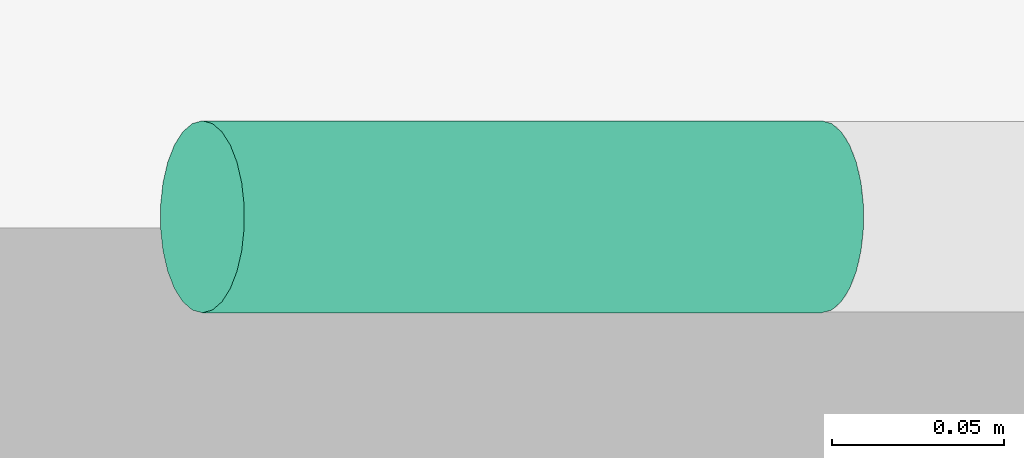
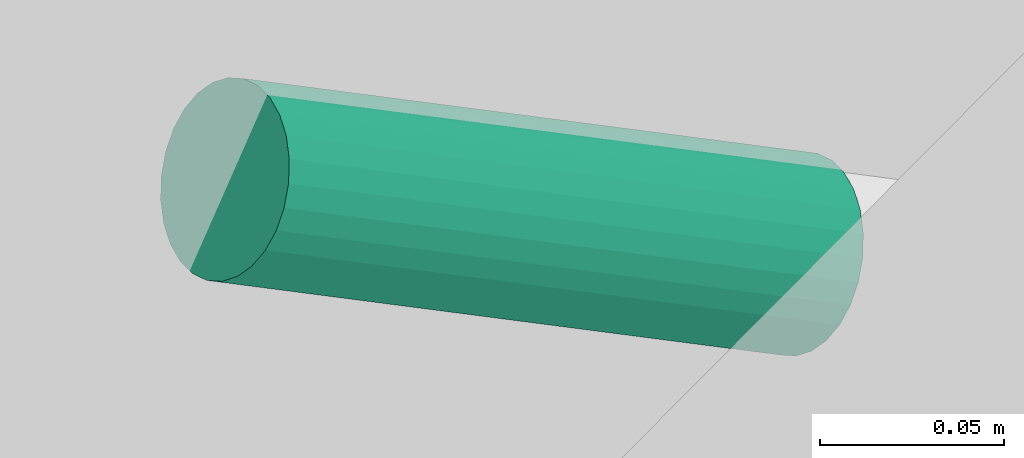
# One storey, part 34 of 108: 1 cable carrier segment.
"""IFC4 building model written with IfcOpenShell, lengths in feet."""

import ifcopenshell
import ifcopenshell.guid

model = None  # the IFC model being written
_history = None  # IfcOwnerHistory: only IFC2X3 demands one
_inside = {}  # id of a spatial element -> (the spatial element, [elements in it])
_under = {}  # id of a project, library or spatial element -> (it, [spatial elements below it])
_declared = {}  # id of a project -> (the project, [libraries it declares])
_typed = {}  # id of a type object -> (the type object, [elements of that type])
_made_of = {}  # id of a material, layer set ... -> (it, [elements and type objects made of it])


def new_model(schema):
    """Start an empty IFC model of exactly this schema.

    Asked for "IFC4X3", IfcOpenShell would pick the latest addendum, in which some entities
    have other attributes; the version numbers below select the first issue.
    IFC2X3 requires an IfcOwnerHistory on every rooted entity: one is made here for all.
    """
    global model, _history
    if schema == "IFC4X3":
        model = ifcopenshell.file(schema_version=(4, 3, 0, 0))
    else:
        model = ifcopenshell.file(schema=schema)
    _inside.clear()
    _under.clear()
    _declared.clear()
    _typed.clear()
    _made_of.clear()
    _history = None
    if model.schema == "IFC2X3":
        org = make("IfcOrganization", Name="unknown")
        user = make(
            "IfcPersonAndOrganization",
            ThePerson=make("IfcPerson", FamilyName="unknown"),
            TheOrganization=org,
        )
        app = make(
            "IfcApplication",
            ApplicationDeveloper=org,
            Version="unknown",
            ApplicationFullName="unknown",
            ApplicationIdentifier="unknown",
        )
        _history = make(
            "IfcOwnerHistory",
            OwningUser=user,
            OwningApplication=app,
            ChangeAction="ADDED",
            CreationDate=0,
        )
    return model


def make(cls, **values):
    """One entity of the class cls with the attributes given. An attribute that is None is left unset."""
    return model.create_entity(
        cls, **{name: value for name, value in values.items() if value is not None}
    )


def entity(cls, *values):
    """Any entity or typed value of the class cls, its attributes in the order of the schema. None: left unset."""
    e = model.create_entity(cls)
    for i, value in enumerate(values):
        if value is not None:
            e[i] = value
    return e


def rooted(cls, **values):
    """An entity with a GlobalId (a new one), such as an element, a storey or a relation."""
    return make(cls, GlobalId=ifcopenshell.guid.new(), OwnerHistory=_history, **values)


def si_unit(unit_type, name, prefix=None):
    """IfcSIUnit, for example si_unit("LENGTHUNIT", "METRE", prefix="MILLI")."""
    return make("IfcSIUnit", UnitType=unit_type, Prefix=prefix, Name=name)


def converted_unit(unit_type, name, factor, base, dimensions=None, offset=None):
    """IfcConversionBasedUnit, such as the inch: factor (a typed value) times the base unit."""
    return make(
        "IfcConversionBasedUnit"
        if offset is None
        else "IfcConversionBasedUnitWithOffset",
        ConversionOffset=offset,
        Dimensions=None
        if dimensions is None
        else entity("IfcDimensionalExponents", *dimensions),
        UnitType=unit_type,
        Name=name,
        ConversionFactor=make(
            "IfcMeasureWithUnit", ValueComponent=factor, UnitComponent=base
        ),
    )


def derived_unit(unit_type, elements):
    """IfcDerivedUnit: a product of units, each with its exponent."""
    return make(
        "IfcDerivedUnit",
        Elements=[
            make("IfcDerivedUnitElement", Unit=unit, Exponent=power)
            for unit, power in elements
        ],
        UnitType=unit_type,
    )


def assignment(units):
    """IfcUnitAssignment: the units of a project."""
    return None if units is None else make("IfcUnitAssignment", Units=units)


def point(xyz):
    """IfcCartesianPoint."""
    return None if xyz is None else make("IfcCartesianPoint", Coordinates=xyz)


def direction(xyz):
    """IfcDirection."""
    return None if xyz is None else make("IfcDirection", DirectionRatios=xyz)


def frame(location, z_axis=None, x_axis=None):
    """IfcAxis2Placement3D, a coordinate frame: its origin and axes. An axis left out is left unset."""
    return make(
        "IfcAxis2Placement3D",
        Location=point(location),
        Axis=direction(z_axis),
        RefDirection=direction(x_axis),
    )


def frame_2d(location, x_axis=None):
    """IfcAxis2Placement2D, a coordinate frame in the plane: its origin and x axis."""
    return make(
        "IfcAxis2Placement2D", Location=point(location), RefDirection=direction(x_axis)
    )


def origin():
    """The frame at (0, 0, 0) with its axes left unset."""
    return frame((0.0, 0.0, 0.0))


def place(relative_to, where):
    """IfcLocalPlacement: puts the frame where relative to a parent placement (None: the world)."""
    return make(
        "IfcLocalPlacement", PlacementRelTo=relative_to, RelativePlacement=where
    )


def context(
    kind, dimensions, precision=None, world=None, true_north=None, identifier=None
):
    """IfcGeometricRepresentationContext, for example the 3D "Model" context."""
    return make(
        "IfcGeometricRepresentationContext",
        ContextIdentifier=identifier,
        ContextType=kind,
        CoordinateSpaceDimension=dimensions,
        Precision=precision,
        WorldCoordinateSystem=world,
        TrueNorth=true_north,
    )


def subcontext(parent, identifier, kind, view, scale=None):
    """IfcGeometricRepresentationSubContext, for example "Body" below "Model"."""
    return make(
        "IfcGeometricRepresentationSubContext",
        ContextIdentifier=identifier,
        ContextType=kind,
        ParentContext=parent,
        TargetScale=scale,
        TargetView=view,
    )


def project(units=None, contexts=None):
    """IfcProject with its units and contexts."""
    return rooted(
        "IfcProject",
        Name="project",
        RepresentationContexts=contexts,
        UnitsInContext=assignment(units),
    )


def spatial(cls, under=None, at=None, **own):
    """A site, building, storey or space (cls), placed at a placement, below another one or the project."""
    s = rooted(cls, ObjectPlacement=at, **own)
    if under is not None:
        _under.setdefault(under.id(), (under, []))[1].append(s)
    return s


def profile(cls, at=None, kind="AREA", **sizes):
    """A parametric profile (cls). Its sizes go by their IFC names, for example OverallWidth=200.0."""
    return make(cls, ProfileType=kind, Position=at, **sizes)


def circle(**sizes):
    """IfcCircleProfileDef."""
    return profile("IfcCircleProfileDef", **sizes)


def extrude(swept, where, along, depth):
    """IfcExtrudedAreaSolid: the profile swept, set in the frame where, extruded along a direction by depth."""
    return make(
        "IfcExtrudedAreaSolid",
        SweptArea=swept,
        Position=where,
        ExtrudedDirection=direction(along),
        Depth=depth,
    )


def shape(context_of_items, identifier, shape_type, items):
    """IfcShapeRepresentation: the items that make up one representation, for example the "Body"."""
    return make(
        "IfcShapeRepresentation",
        ContextOfItems=context_of_items,
        RepresentationIdentifier=identifier,
        RepresentationType=shape_type,
        Items=items,
    )


def made_of(thing, what):
    """Note that an element or type object is made of a material, layer set ...; save() writes the relation."""
    if what is not None:
        _made_of.setdefault(what.id(), (what, []))[1].append(thing)
    return thing


def type_object(cls, material=None, **own):
    """A type object (cls), such as IfcWallType, which elements share."""
    return made_of(rooted(cls, **own), material)


def element(
    cls,
    number,
    at=None,
    inside=None,
    cuts=None,
    type_object=None,
    material=None,
    context=None,
    identifier="Body",
    shape_type=None,
    held_by="IfcProductDefinitionShape",
    body=None,
    shapes=None,
    **own,
):
    """One element of the class cls, such as IfcWall. Its Tag is "e" and its number.

    at: its placement. inside: the storey or other place that contains it. cuts: it is an
    opening in that element (IfcRelVoidsElement). A single representation is given by context,
    identifier, shape_type and body (its items); several are given by shapes. held_by: the class
    of the entity that holds the representations. save() writes the other relations.
    """
    e = rooted(cls, Tag="e%d" % number, ObjectPlacement=at, **own)
    if body is not None:
        shapes = [shape(context, identifier, shape_type, body)]
    if shapes is not None:
        e.Representation = make(held_by, Representations=shapes)
    if inside is not None:
        _inside.setdefault(inside.id(), (inside, []))[1].append(e)
    if cuts is not None:
        rooted(
            "IfcRelVoidsElement", RelatingBuildingElement=cuts, RelatedOpeningElement=e
        )
    if type_object is not None:
        _typed.setdefault(type_object.id(), (type_object, []))[1].append(e)
    return made_of(e, material)


def aggregate(whole, parts):
    """IfcRelAggregates: a whole, such as a stair, and the parts it consists of."""
    return rooted("IfcRelAggregates", RelatingObject=whole, RelatedObjects=parts)


def save(model, path):
    """Write the relations noted so far, then the file.

    IfcRelAggregates (storeys below a building ...), IfcRelContainedInSpatialStructure (elements
    in a storey), IfcRelDefinesByType, IfcRelAssociatesMaterial and IfcRelDeclares: one each for
    every whole, place, type object, material and project.
    """
    for whole, parts in _under.values():
        aggregate(whole, parts)
    for where, things in _inside.values():
        rooted(
            "IfcRelContainedInSpatialStructure",
            RelatedElements=things,
            RelatingStructure=where,
        )
    for kind, things in _typed.values():
        rooted("IfcRelDefinesByType", RelatedObjects=things, RelatingType=kind)
    for what, things in _made_of.values():
        rooted("IfcRelAssociatesMaterial", RelatedObjects=things, RelatingMaterial=what)
    for by, libraries in _declared.values():
        rooted("IfcRelDeclares", RelatingContext=by, RelatedDefinitions=libraries)
    model.write(path)


model = new_model("IFC4")

# Units and contexts
model_context = context("Model", 3, precision=0.0001, world=origin(), true_north=direction((6.12303176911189e-17, 1.0)))
body_context = subcontext(model_context, "Body", "Model", "MODEL_VIEW")
ifc_project = project(units=[converted_unit("LENGTHUNIT", "FOOT", entity("IfcRatioMeasure", 0.3048), si_unit("LENGTHUNIT", "METRE"), dimensions=[1, 0, 0, 0, 0, 0, 0]), converted_unit("AREAUNIT", "SQUARE FOOT", entity("IfcRatioMeasure", 0.09290304), si_unit("AREAUNIT", "SQUARE_METRE"), dimensions=[2, 0, 0, 0, 0, 0, 0]), converted_unit("VOLUMEUNIT", "CUBIC FOOT", entity("IfcRatioMeasure", 0.028316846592), si_unit("VOLUMEUNIT", "CUBIC_METRE"), dimensions=[3, 0, 0, 0, 0, 0, 0]), converted_unit("PLANEANGLEUNIT", "DEGREE", entity("IfcRatioMeasure", 0.0174532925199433), si_unit("PLANEANGLEUNIT", "RADIAN"), dimensions=[0, 0, 0, 0, 0, 0, 0]), si_unit("MASSUNIT", "GRAM", prefix="KILO"), derived_unit("MASSDENSITYUNIT", [(si_unit("MASSUNIT", "GRAM", prefix="KILO"), 1), (si_unit("LENGTHUNIT", "METRE"), -3)]), si_unit("TIMEUNIT", "SECOND"), si_unit("FREQUENCYUNIT", "HERTZ"), si_unit("THERMODYNAMICTEMPERATUREUNIT", "DEGREE_CELSIUS"), derived_unit("THERMALTRANSMITTANCEUNIT", [(si_unit("MASSUNIT", "GRAM", prefix="KILO"), 1), (si_unit("THERMODYNAMICTEMPERATUREUNIT", "KELVIN"), -1), (si_unit("TIMEUNIT", "SECOND"), -3)]), derived_unit("VOLUMETRICFLOWRATEUNIT", [(si_unit("LENGTHUNIT", "METRE"), 3), (si_unit("TIMEUNIT", "SECOND"), -1)]), si_unit("ELECTRICCURRENTUNIT", "AMPERE"), si_unit("ELECTRICVOLTAGEUNIT", "VOLT"), si_unit("POWERUNIT", "WATT"), si_unit("FORCEUNIT", "NEWTON"), si_unit("ILLUMINANCEUNIT", "LUX"), si_unit("LUMINOUSFLUXUNIT", "LUMEN"), si_unit("LUMINOUSINTENSITYUNIT", "CANDELA"), derived_unit("USERDEFINED", [(si_unit("MASSUNIT", "GRAM", prefix="KILO"), -1), (si_unit("LENGTHUNIT", "METRE"), -2), (si_unit("TIMEUNIT", "SECOND"), 3), (si_unit("LUMINOUSFLUXUNIT", "LUMEN"), 1)]), derived_unit("LINEARVELOCITYUNIT", [(si_unit("LENGTHUNIT", "METRE"), 1), (si_unit("TIMEUNIT", "SECOND"), -1)]), si_unit("PRESSUREUNIT", "PASCAL"), derived_unit("USERDEFINED", [(si_unit("LENGTHUNIT", "METRE"), -2), (si_unit("MASSUNIT", "GRAM", prefix="KILO"), 1), (si_unit("TIMEUNIT", "SECOND"), -2)])], contexts=[model_context])

# Site, building, storey
site_placement = place(None, origin())
site = spatial("IfcSite", under=ifc_project, at=site_placement, Name="Default", CompositionType="ELEMENT")
building_placement = place(site_placement, origin())
building = spatial("IfcBuilding", under=site, at=building_placement, CompositionType="ELEMENT")
storey_placement = place(building_placement, frame((0.0, 0.0, 168.0)))
storey = spatial("IfcBuildingStorey", under=building, at=storey_placement, Name="Level 15", CompositionType="ELEMENT", Elevation=168.0)

# Cable carrier segment
cable_carrier_segment_type = type_object("IfcCableCarrierSegmentType", Name="Conduit with Fittings:Conduit", PredefinedType="NOTDEFINED")
cable_carrier_segment_placement = place(storey_placement, frame((-54.2347290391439, -15.6954954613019, 9.822268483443)))
element("IfcCableCarrierSegment", 1, at=cable_carrier_segment_placement, inside=storey, type_object=cable_carrier_segment_type, Name="Conduit with Fittings:Conduit", ObjectType="Conduit with Fittings:Conduit", PredefinedType="NOTDEFINED", context=body_context, shape_type="SweptSolid", body=[
    extrude(circle(Radius=0.0915416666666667, at=frame_2d((-1.77635683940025e-15, 7.02733326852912e-30), x_axis=(1.0, 0.0))), frame((0.0453630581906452, 0.0967754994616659, 0.375525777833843), z_axis=(0.898794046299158, 0.0, -0.438371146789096), x_axis=(0.0, 1.0, 0.0)), (0.0, 0.0, 1.0), 0.657011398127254),
])

save(model, "model.ifc")
